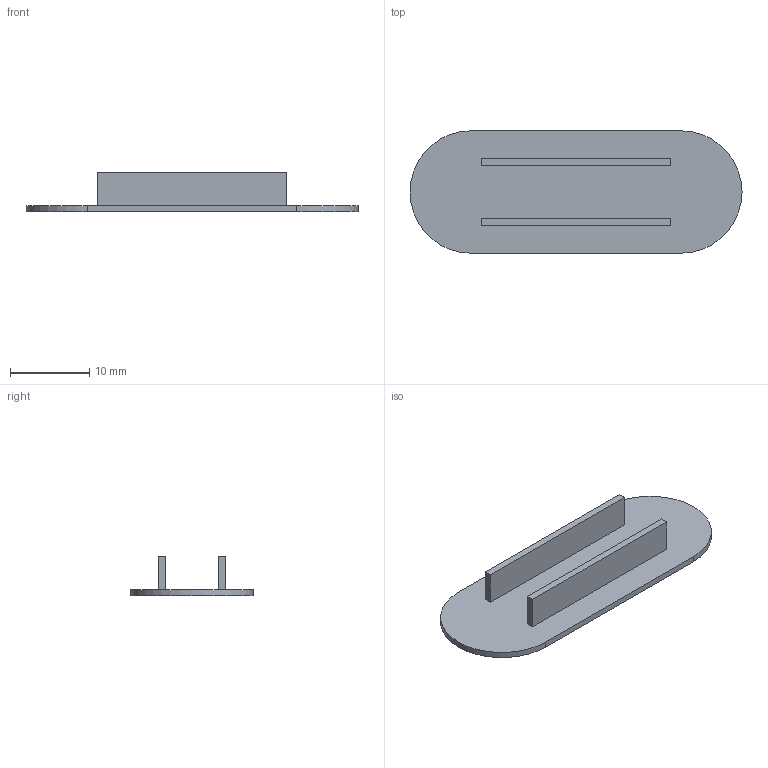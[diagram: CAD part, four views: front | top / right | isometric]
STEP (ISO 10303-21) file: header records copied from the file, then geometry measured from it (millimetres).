
FILE_DESCRIPTION (( 'STEP AP214' ), '1' );
FILE_NAME ('1.1052 Päätysuoja 45 GL.STEP', '2025-09-03T09:03:24', ( '' ), ( '' ), 'SwSTEP 2.0', 'SolidWorks 2025', '' );
FILE_SCHEMA (( 'AUTOMOTIVE_DESIGN' ));
Length unit declared in the file: millimetre
Products named in the file (1): 1.1052 Päätysuoja 45 GL
Bounding box: 42 x 15.5 x 5.05 mm (x, y, z)
Volume: 642.3 mm3; surface area: 1779.2 mm2
Topology: 1 solids, 1 shells, 238 faces, 666 edges, 444 vertices
Faces by surface type: plane 151, bspline 85, cylinder 2
Entity records: 10239 total; most frequent: CARTESIAN_POINT 4666, ORIENTED_EDGE 1332, DIRECTION 808, EDGE_CURVE 666, LINE 492, VECTOR 492, VERTEX_POINT 444, EDGE_LOOP 252
